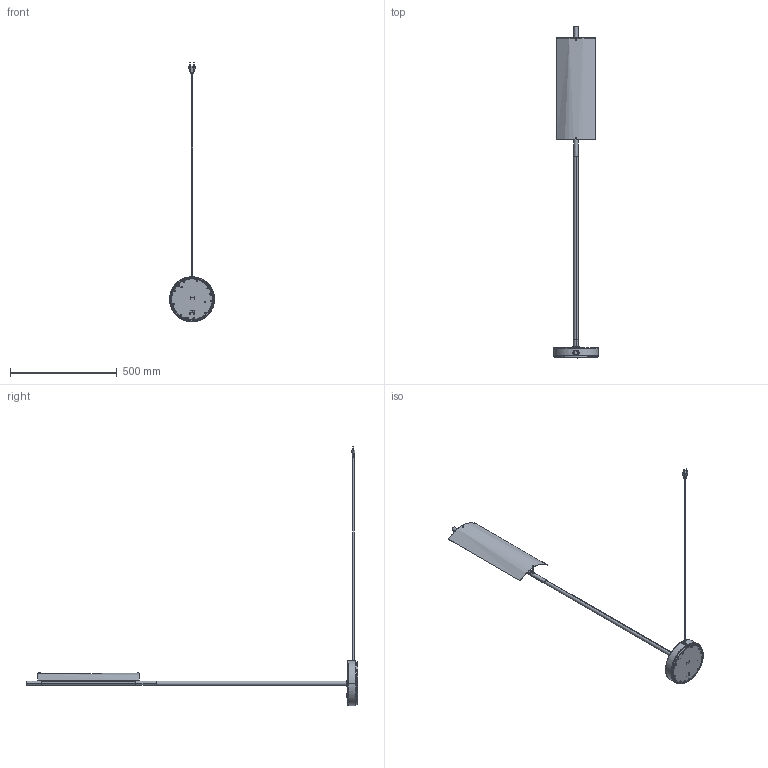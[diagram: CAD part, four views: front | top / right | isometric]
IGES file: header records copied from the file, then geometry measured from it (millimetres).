
Start section: SolidWorks IGES file using analytic representation for surfaces
Global section: file name: C:\SANTACOLE_PDM\Proyectos Catálogo\PROD-P21-004 -- LAMINA VERTICAL\6_Técnico comercial\3D\IGES - web\Lamina 45 pie.IGS; native system: SolidWorks 2021; preprocessor: SolidWorks 2021; author: clara.galimany; date: 240628.120549; units: millimetre
Bounding box: 210 x 1555.3 x 1214.84 mm (x, y, z)
Surface area: 557008.4 mm2 (no closed solid volume)
Topology: 0 solids, 0 shells, 2688 faces, 22590 edges, 22556 vertices
Faces by surface type: bspline 2027, revolution 661
